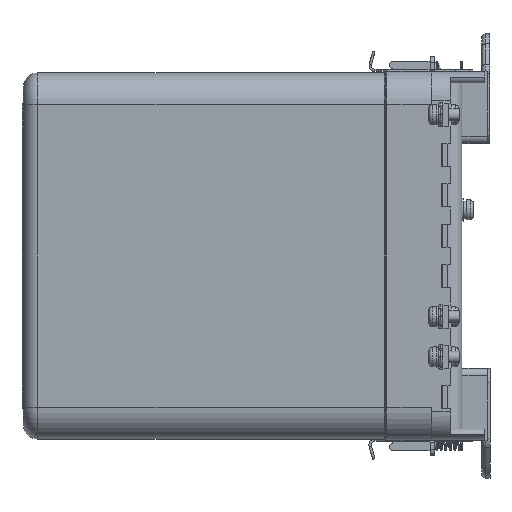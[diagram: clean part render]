
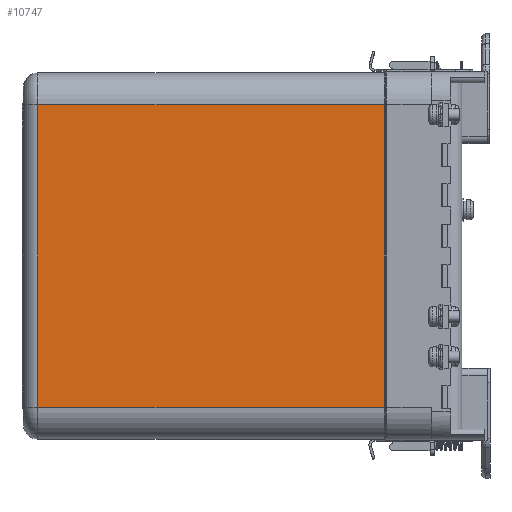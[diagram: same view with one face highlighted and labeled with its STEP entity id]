
A CAD part, left-side view. The second image highlights one B-rep face of the part: STEP entity #10747.
In plain terms, the highlighted planar face has unit normal (-1, 0, 0).
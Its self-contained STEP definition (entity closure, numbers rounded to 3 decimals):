
#10747=ADVANCED_FACE('',(#26982),#26984,.T.);
#26982=FACE_BOUND('',#26983,.T.);
#26983=EDGE_LOOP('',(#39032,#39033,#39034,#39035));
#26984=PLANE('',#26985);
#26985=AXIS2_PLACEMENT_3D('',#26986,#26987,#26988);
#26986=CARTESIAN_POINT('',(-56.5,19.5,-52.5));
#26987=DIRECTION('',(-1.,0.,0.));
#26988=DIRECTION('',(0.,0.,1.));
#39032=ORIENTED_EDGE('',*,*,#43518,.T.);
#39033=ORIENTED_EDGE('',*,*,#43215,.F.);
#39034=ORIENTED_EDGE('',*,*,#43180,.F.);
#39035=ORIENTED_EDGE('',*,*,#43418,.T.);
#43180=EDGE_CURVE('',#48822,#48087,#49105,.F.);
#43215=EDGE_CURVE('',#48087,#49158,#49160,.T.);
#43418=EDGE_CURVE('',#48822,#49452,#49454,.T.);
#43518=EDGE_CURVE('',#49452,#49158,#49613,.F.);
#48087=VERTEX_POINT('',#61374);
#48822=VERTEX_POINT('',#64005);
#49105=LINE('',#64915,#64916);
#49158=VERTEX_POINT('',#65080);
#49160=LINE('',#65085,#65086);
#49452=VERTEX_POINT('',#65990);
#49454=LINE('',#65995,#65996);
#49613=LINE('',#66639,#66640);
#61374=CARTESIAN_POINT('',(-56.5,35.866,-52.5));
#64005=CARTESIAN_POINT('',(-56.5,35.866,52.5));
#64915=CARTESIAN_POINT('',(-56.5,35.866,-52.5));
#64916=VECTOR('',#64917,1.);
#64917=DIRECTION('',(0.,0.,1.));
#65080=CARTESIAN_POINT('',(-56.5,156.,-52.5));
#65085=CARTESIAN_POINT('',(-56.5,35.866,-52.5));
#65086=VECTOR('',#65087,1.);
#65087=DIRECTION('',(0.,1.,0.));
#65990=CARTESIAN_POINT('',(-56.5,156.,52.5));
#65995=CARTESIAN_POINT('',(-56.5,35.866,52.5));
#65996=VECTOR('',#65997,1.);
#65997=DIRECTION('',(0.,1.,0.));
#66639=CARTESIAN_POINT('',(-56.5,156.,-52.5));
#66640=VECTOR('',#66641,1.);
#66641=DIRECTION('',(0.,0.,1.));
